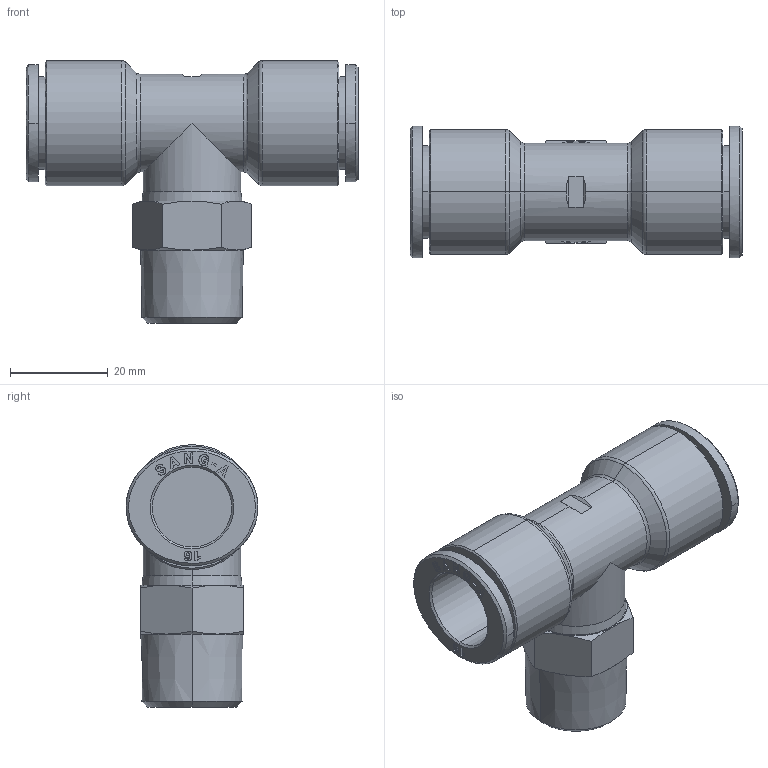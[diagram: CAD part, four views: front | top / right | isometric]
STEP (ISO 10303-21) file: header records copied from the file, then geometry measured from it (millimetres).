
FILE_DESCRIPTION((''),'2;1');
FILE_NAME('GPT 1604(3D).stp','2012-12-26T18:55:38',(''),(''),'Mechanical Desktop.R8.0.24.0','Mechanical Desktop.R8.0.24.0',', , ');
FILE_SCHEMA(('CONFIG_CONTROL_DESIGN'));
Length unit declared in the file: millimetre
Products named in the file (2): GPT 1604(3D); 睡ヶ1
Assembly tree (1 placements, depth 2):
  GPT 1604(3D)
    睡ヶ1
Bounding box: 68 x 27 x 53.8 mm (x, y, z)
Volume: 27436.5 mm3; surface area: 12517.6 mm2
Topology: 1 solids, 1 shells, 517 faces, 1410 edges, 923 vertices
Faces by surface type: plane 375, bspline 62, cylinder 38, cone 38, torus 4
Entity records: 17813 total; most frequent: CARTESIAN_POINT 4746, ORIENTED_EDGE 2816, DIRECTION 2528, EDGE_CURVE 1408, VECTOR 1134, LINE 1134, VERTEX_POINT 923, AXIS2_PLACEMENT_3D 697
